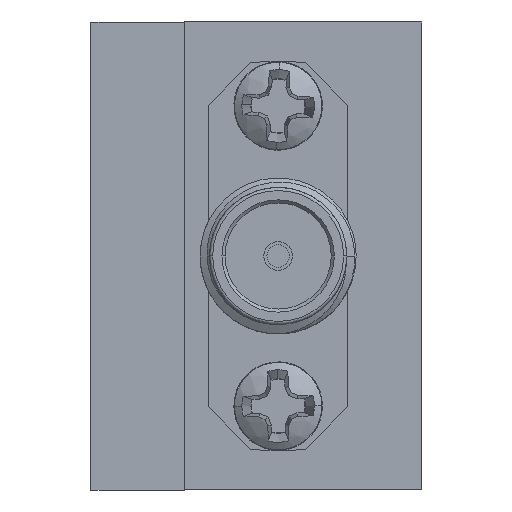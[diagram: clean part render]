
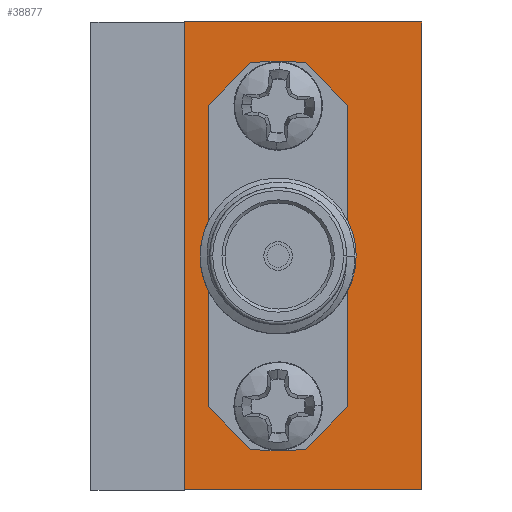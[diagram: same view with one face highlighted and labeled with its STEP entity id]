
A CAD part, left-side view. The second image highlights one B-rep face of the part: STEP entity #38877.
In plain terms, the highlighted planar face has unit normal (-1, 0, 0).
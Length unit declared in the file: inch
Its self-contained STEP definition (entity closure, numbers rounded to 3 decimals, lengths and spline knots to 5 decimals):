
#755 = EDGE_CURVE ( 'NONE', #38353, #27948, #53028, .T. ) ;
#987 = VERTEX_POINT ( 'NONE', #22500 ) ;
#1296 = AXIS2_PLACEMENT_3D ( 'NONE', #16725, #36372, #31029 ) ;
#2955 = VECTOR ( 'NONE', #59410, 39.37008 ) ;
#3026 = VERTEX_POINT ( 'NONE', #57605 ) ;
#3219 = CARTESIAN_POINT ( 'NONE',  ( -1.83587, 0.80713, 0.26967 ) ) ;
#3749 = EDGE_CURVE ( 'NONE', #27948, #38353, #46107, .T. ) ;
#5350 = EDGE_CURVE ( 'NONE', #54157, #55541, #27438, .T. ) ;
#6191 = ORIENTED_EDGE ( 'NONE', *, *, #27095, .F. ) ;
#6562 = VECTOR ( 'NONE', #19163, 39.37008 ) ;
#7554 = ORIENTED_EDGE ( 'NONE', *, *, #46850, .T. ) ;
#8378 = CARTESIAN_POINT ( 'NONE',  ( -1.83587, 0.57713, -0.10533 ) ) ;
#8551 = ORIENTED_EDGE ( 'NONE', *, *, #65336, .F. ) ;
#8952 = ORIENTED_EDGE ( 'NONE', *, *, #28863, .F. ) ;
#9550 = DIRECTION ( 'NONE',  ( -1., 0., 0. ) ) ;
#11275 = CARTESIAN_POINT ( 'NONE',  ( -1.83587, 0.80713, 0.18667 ) ) ;
#11871 = CIRCLE ( 'NONE', #24572, 0.043 ) ;
#14504 = LINE ( 'NONE', #50084, #6562 ) ;
#14746 = AXIS2_PLACEMENT_3D ( 'NONE', #39211, #9550, #55426 ) ;
#15152 = CARTESIAN_POINT ( 'NONE',  ( -1.83587, 0.57713, 0.64467 ) ) ;
#15328 = CARTESIAN_POINT ( 'NONE',  ( -1.83587, 0.57713, 0.64467 ) ) ;
#15576 = CARTESIAN_POINT ( 'NONE',  ( -1.83587, 0.80713, 0.51017 ) ) ;
#15670 = FACE_OUTER_BOUND ( 'NONE', #55799, .T. ) ;
#15687 = CARTESIAN_POINT ( 'NONE',  ( -1.83587, 0.80713, 0.46717 ) ) ;
#16628 = ORIENTED_EDGE ( 'NONE', *, *, #755, .F. ) ;
#16725 = CARTESIAN_POINT ( 'NONE',  ( -1.83587, 0.80713, 0.02917 ) ) ;
#16728 = CARTESIAN_POINT ( 'NONE',  ( -1.83587, 0.80713, 0.35267 ) ) ;
#16836 = DIRECTION ( 'NONE',  ( -1., 0., 0. ) ) ;
#17220 = CARTESIAN_POINT ( 'NONE',  ( -1.83587, 0.80713, 0.55317 ) ) ;
#19163 = DIRECTION ( 'NONE',  ( 0., 1., 0. ) ) ;
#19987 = FACE_BOUND ( 'NONE', #36474, .T. ) ;
#20650 = FACE_BOUND ( 'NONE', #26472, .T. ) ;
#20982 = PLANE ( 'NONE',  #36936 ) ;
#22124 = AXIS2_PLACEMENT_3D ( 'NONE', #51758, #16836, #53061 ) ;
#22189 = VECTOR ( 'NONE', #58571, 39.37008 ) ;
#22350 = ORIENTED_EDGE ( 'NONE', *, *, #3749, .F. ) ;
#22500 = CARTESIAN_POINT ( 'NONE',  ( -1.83587, 0.80713, 0.07217 ) ) ;
#22561 = DIRECTION ( 'NONE',  ( -1., 0., 0. ) ) ;
#24572 = AXIS2_PLACEMENT_3D ( 'NONE', #42942, #43262, #63525 ) ;
#26472 = EDGE_LOOP ( 'NONE', ( #63518, #8952 ) ) ;
#27095 = EDGE_CURVE ( 'NONE', #46294, #3026, #63569, .T. ) ;
#27438 = CIRCLE ( 'NONE', #22124, 0.083 ) ;
#27948 = VERTEX_POINT ( 'NONE', #15687 ) ;
#28863 = EDGE_CURVE ( 'NONE', #48225, #987, #37524, .T. ) ;
#29244 = VERTEX_POINT ( 'NONE', #40945 ) ;
#30129 = LINE ( 'NONE', #15152, #2955 ) ;
#30207 = DIRECTION ( 'NONE',  ( -1., 0., 0. ) ) ;
#30359 = ORIENTED_EDGE ( 'NONE', *, *, #5350, .F. ) ;
#31029 = DIRECTION ( 'NONE',  ( 0., 0., 1. ) ) ;
#34087 = ORIENTED_EDGE ( 'NONE', *, *, #53079, .T. ) ;
#35102 = VECTOR ( 'NONE', #63889, 39.37008 ) ;
#35545 = DIRECTION ( 'NONE',  ( 0., 0., 1. ) ) ;
#35637 = DIRECTION ( 'NONE',  ( 1., 0., 0. ) ) ;
#36372 = DIRECTION ( 'NONE',  ( -1., 0., 0. ) ) ;
#36474 = EDGE_LOOP ( 'NONE', ( #16628, #22350 ) ) ;
#36936 = AXIS2_PLACEMENT_3D ( 'NONE', #15328, #35637, #55883 ) ;
#37524 = CIRCLE ( 'NONE', #1296, 0.043 ) ;
#38353 = VERTEX_POINT ( 'NONE', #17220 ) ;
#38877 = ADVANCED_FACE ( 'NONE', ( #20650, #19987, #40621, #15670 ), #20982, .F. ) ;
#39211 = CARTESIAN_POINT ( 'NONE',  ( -1.83587, 0.80713, 0.51017 ) ) ;
#39336 = AXIS2_PLACEMENT_3D ( 'NONE', #3219, #22561, #54125 ) ;
#39720 = AXIS2_PLACEMENT_3D ( 'NONE', #15576, #30207, #35545 ) ;
#40621 = FACE_BOUND ( 'NONE', #56249, .T. ) ;
#40945 = CARTESIAN_POINT ( 'NONE',  ( -1.83587, 0.57713, 0.64467 ) ) ;
#42942 = CARTESIAN_POINT ( 'NONE',  ( -1.83587, 0.80713, 0.02917 ) ) ;
#43262 = DIRECTION ( 'NONE',  ( -1., 0., 0. ) ) ;
#43915 = CARTESIAN_POINT ( 'NONE',  ( -1.83587, 0.95713, 0.64467 ) ) ;
#44201 = ORIENTED_EDGE ( 'NONE', *, *, #55689, .F. ) ;
#44239 = LINE ( 'NONE', #43915, #22189 ) ;
#45355 = CARTESIAN_POINT ( 'NONE',  ( -1.83587, 0.95713, 0.64467 ) ) ;
#45649 = CIRCLE ( 'NONE', #39336, 0.083 ) ;
#46107 = CIRCLE ( 'NONE', #39720, 0.043 ) ;
#46294 = VERTEX_POINT ( 'NONE', #52963 ) ;
#46850 = EDGE_CURVE ( 'NONE', #29244, #57705, #14504, .T. ) ;
#48225 = VERTEX_POINT ( 'NONE', #50151 ) ;
#50084 = CARTESIAN_POINT ( 'NONE',  ( -1.83587, 0.57713, 0.64467 ) ) ;
#50151 = CARTESIAN_POINT ( 'NONE',  ( -1.83587, 0.80713, -0.01383 ) ) ;
#51758 = CARTESIAN_POINT ( 'NONE',  ( -1.83587, 0.80713, 0.26967 ) ) ;
#52963 = CARTESIAN_POINT ( 'NONE',  ( -1.83587, 0.57713, -0.10533 ) ) ;
#53028 = CIRCLE ( 'NONE', #14746, 0.043 ) ;
#53061 = DIRECTION ( 'NONE',  ( 0., 0., 1. ) ) ;
#53079 = EDGE_CURVE ( 'NONE', #57705, #3026, #44239, .T. ) ;
#54125 = DIRECTION ( 'NONE',  ( 0., 0., 1. ) ) ;
#54157 = VERTEX_POINT ( 'NONE', #16728 ) ;
#55426 = DIRECTION ( 'NONE',  ( 0., 0., 1. ) ) ;
#55541 = VERTEX_POINT ( 'NONE', #11275 ) ;
#55689 = EDGE_CURVE ( 'NONE', #55541, #54157, #45649, .T. ) ;
#55799 = EDGE_LOOP ( 'NONE', ( #34087, #6191, #8551, #7554 ) ) ;
#55883 = DIRECTION ( 'NONE',  ( 0., 0., -1. ) ) ;
#56249 = EDGE_LOOP ( 'NONE', ( #30359, #44201 ) ) ;
#57363 = EDGE_CURVE ( 'NONE', #987, #48225, #11871, .T. ) ;
#57605 = CARTESIAN_POINT ( 'NONE',  ( -1.83587, 0.95713, -0.10533 ) ) ;
#57705 = VERTEX_POINT ( 'NONE', #45355 ) ;
#58571 = DIRECTION ( 'NONE',  ( 0., 0., -1. ) ) ;
#59410 = DIRECTION ( 'NONE',  ( 0., 0., -1. ) ) ;
#63518 = ORIENTED_EDGE ( 'NONE', *, *, #57363, .F. ) ;
#63525 = DIRECTION ( 'NONE',  ( 0., 0., 1. ) ) ;
#63569 = LINE ( 'NONE', #8378, #35102 ) ;
#63889 = DIRECTION ( 'NONE',  ( 0., 1., 0. ) ) ;
#65336 = EDGE_CURVE ( 'NONE', #29244, #46294, #30129, .T. ) ;
